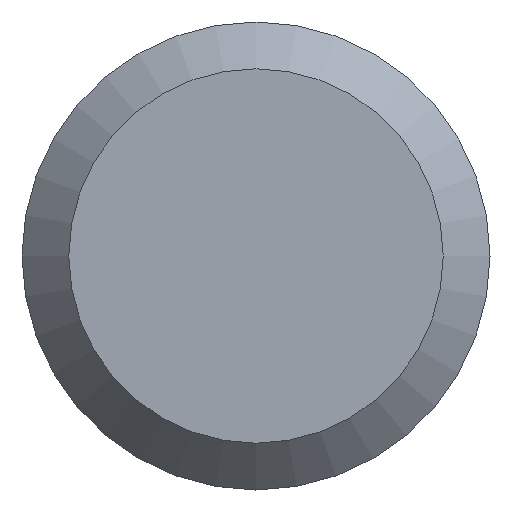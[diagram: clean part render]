
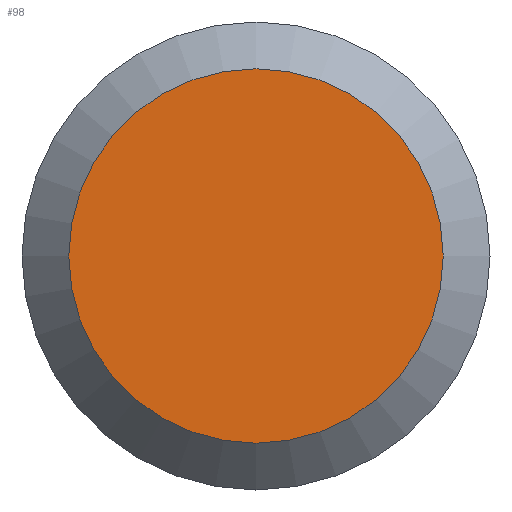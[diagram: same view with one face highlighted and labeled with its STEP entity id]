
A CAD part, left-side view. The second image highlights one B-rep face of the part: STEP entity #98.
In plain terms, the highlighted planar face has unit normal (-1, 0, 0).
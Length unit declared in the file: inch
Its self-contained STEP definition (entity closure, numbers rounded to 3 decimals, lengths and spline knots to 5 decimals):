
#8 = DIRECTION ( 'NONE',  ( 0., 0., -1. ) ) ;
#40 = DIRECTION ( 'NONE',  ( 1., 0., 0. ) ) ;
#57 = ORIENTED_EDGE ( 'NONE', *, *, #178, .T. ) ;
#65 = AXIS2_PLACEMENT_3D ( 'NONE', #243, #40, #118 ) ;
#66 = CARTESIAN_POINT ( 'NONE',  ( 0., 0., 0. ) ) ;
#77 = AXIS2_PLACEMENT_3D ( 'NONE', #66, #105, #8 ) ;
#98 = ADVANCED_FACE ( 'NONE', ( #157 ), #203, .F. ) ;
#105 = DIRECTION ( 'NONE',  ( -1., 0., 0. ) ) ;
#118 = DIRECTION ( 'NONE',  ( 0., 0., -1. ) ) ;
#157 = FACE_OUTER_BOUND ( 'NONE', #179, .T. ) ;
#160 = VERTEX_POINT ( 'NONE', #232 ) ;
#178 = EDGE_CURVE ( 'NONE', #160, #160, #205, .T. ) ;
#179 = EDGE_LOOP ( 'NONE', ( #57 ) ) ;
#203 = PLANE ( 'NONE',  #65 ) ;
#205 = CIRCLE ( 'NONE', #77, 0.0756 ) ;
#232 = CARTESIAN_POINT ( 'NONE',  ( 0., 0., -0.0756 ) ) ;
#243 = CARTESIAN_POINT ( 'NONE',  ( 0., 0.0945, 0. ) ) ;
